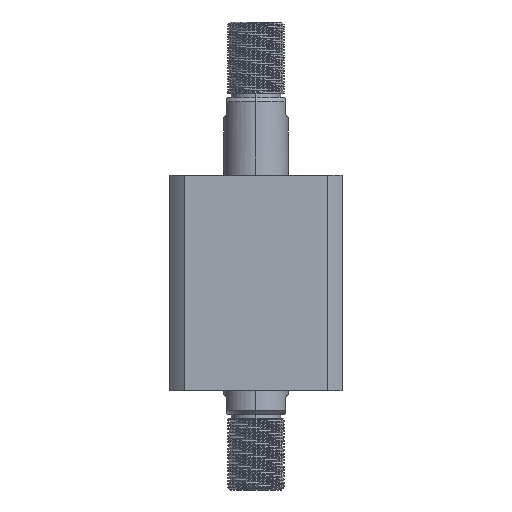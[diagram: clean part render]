
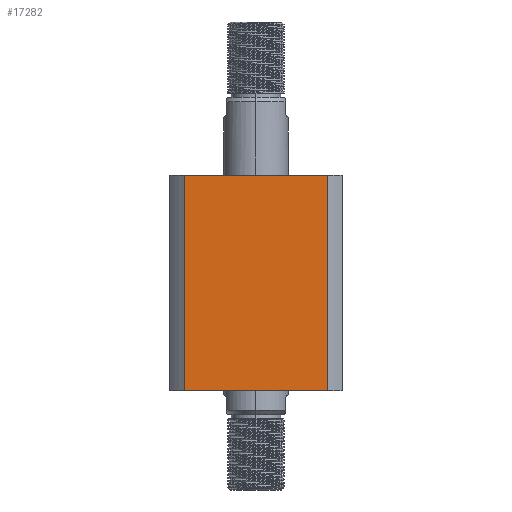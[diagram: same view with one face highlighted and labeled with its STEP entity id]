
A CAD part, left-side view. The second image highlights one B-rep face of the part: STEP entity #17282.
In plain terms, the highlighted planar face has unit normal (-1, 0, 0).
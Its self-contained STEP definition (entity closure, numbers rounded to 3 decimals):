
#177 = VECTOR ( 'NONE', #12388, 1000. ) ;
#1219 = VERTEX_POINT ( 'NONE', #7349 ) ;
#1342 = EDGE_CURVE ( 'NONE', #15558, #1219, #14960, .T. ) ;
#2307 = CARTESIAN_POINT ( 'NONE',  ( -40., 33.226, 50. ) ) ;
#2549 = EDGE_CURVE ( 'NONE', #15558, #14688, #14926, .T. ) ;
#3087 = DIRECTION ( 'NONE',  ( 0., 1., 0. ) ) ;
#3662 = VECTOR ( 'NONE', #12509, 1000. ) ;
#4010 = EDGE_CURVE ( 'NONE', #1219, #13971, #15541, .T. ) ;
#4449 = ORIENTED_EDGE ( 'NONE', *, *, #1342, .T. ) ;
#5285 = ORIENTED_EDGE ( 'NONE', *, *, #12586, .F. ) ;
#5704 = DIRECTION ( 'NONE',  ( 1., 0., 0. ) ) ;
#6128 = CARTESIAN_POINT ( 'NONE',  ( -40., 33.226, 50. ) ) ;
#7349 = CARTESIAN_POINT ( 'NONE',  ( -40., 33.226, -50. ) ) ;
#8243 = DIRECTION ( 'NONE',  ( 0., -1., 0. ) ) ;
#8886 = DIRECTION ( 'NONE',  ( 0., 0., -1. ) ) ;
#9847 = CARTESIAN_POINT ( 'NONE',  ( -40., 33.226, 50. ) ) ;
#9856 = CARTESIAN_POINT ( 'NONE',  ( -40., -33.226, -50. ) ) ;
#10034 = VECTOR ( 'NONE', #8886, 1000. ) ;
#10190 = EDGE_LOOP ( 'NONE', ( #17032, #5285, #15491, #4449 ) ) ;
#10698 = CARTESIAN_POINT ( 'NONE',  ( -40., -33.226, 50. ) ) ;
#11102 = CARTESIAN_POINT ( 'NONE',  ( -40., 33.226, 50. ) ) ;
#11295 = PLANE ( 'NONE',  #12830 ) ;
#11310 = VECTOR ( 'NONE', #8243, 1000. ) ;
#11395 = CARTESIAN_POINT ( 'NONE',  ( -40., -33.226, 50. ) ) ;
#12388 = DIRECTION ( 'NONE',  ( 0., -1., 0. ) ) ;
#12509 = DIRECTION ( 'NONE',  ( 0., 0., -1. ) ) ;
#12586 = EDGE_CURVE ( 'NONE', #14688, #13971, #12617, .T. ) ;
#12617 = LINE ( 'NONE', #10698, #3662 ) ;
#12830 = AXIS2_PLACEMENT_3D ( 'NONE', #9847, #5704, #3087 ) ;
#13971 = VERTEX_POINT ( 'NONE', #9856 ) ;
#14688 = VERTEX_POINT ( 'NONE', #11395 ) ;
#14926 = LINE ( 'NONE', #11102, #11310 ) ;
#14960 = LINE ( 'NONE', #2307, #10034 ) ;
#15298 = FACE_OUTER_BOUND ( 'NONE', #10190, .T. ) ;
#15491 = ORIENTED_EDGE ( 'NONE', *, *, #2549, .F. ) ;
#15541 = LINE ( 'NONE', #17682, #177 ) ;
#15558 = VERTEX_POINT ( 'NONE', #6128 ) ;
#17032 = ORIENTED_EDGE ( 'NONE', *, *, #4010, .T. ) ;
#17282 = ADVANCED_FACE ( 'NONE', ( #15298 ), #11295, .F. ) ;
#17682 = CARTESIAN_POINT ( 'NONE',  ( -40., 33.226, -50. ) ) ;
